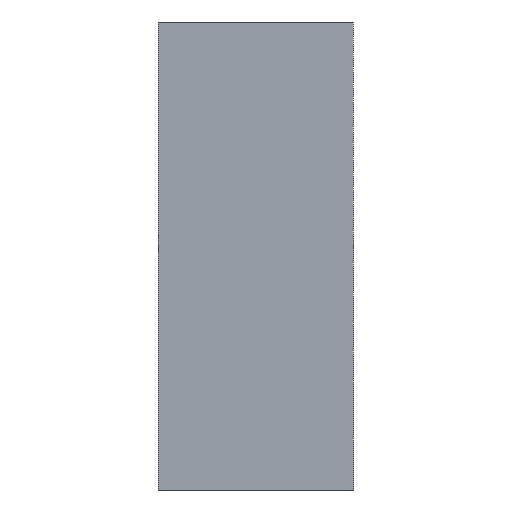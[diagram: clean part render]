
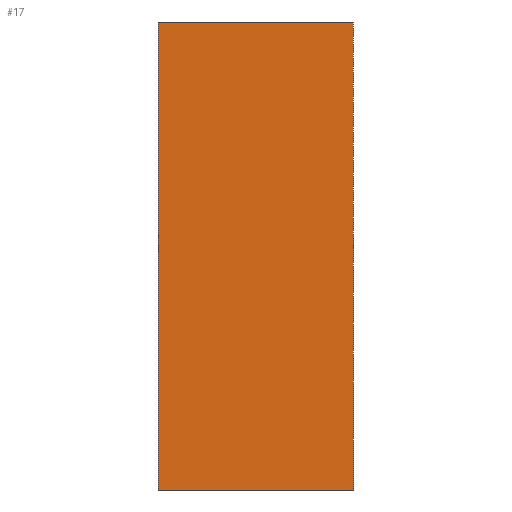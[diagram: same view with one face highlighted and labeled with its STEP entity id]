
A CAD part, front view. The second image highlights one B-rep face of the part: STEP entity #17.
In plain terms, the highlighted planar face has unit normal (0, -1, 0).
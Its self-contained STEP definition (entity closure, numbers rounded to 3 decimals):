
#17 = ADVANCED_FACE('',(#18),#32,.F.);
#18 = FACE_BOUND('',#19,.T.);
#19 = EDGE_LOOP('',(#20,#55,#83,#111));
#20 = ORIENTED_EDGE('',*,*,#21,.F.);
#21 = EDGE_CURVE('',#22,#24,#26,.T.);
#22 = VERTEX_POINT('',#23);
#23 = CARTESIAN_POINT('',(37.,19.,-236.));
#24 = VERTEX_POINT('',#25);
#25 = CARTESIAN_POINT('',(47.,19.,-236.));
#26 = SURFACE_CURVE('',#27,(#31,#43),.PCURVE_S1.);
#27 = LINE('',#28,#29);
#28 = CARTESIAN_POINT('',(37.,19.,-236.));
#29 = VECTOR('',#30,1.);
#30 = DIRECTION('',(1.,0.,0.));
#31 = PCURVE('',#32,#37);
#32 = PLANE('',#33);
#33 = AXIS2_PLACEMENT_3D('',#34,#35,#36);
#34 = CARTESIAN_POINT('',(37.,19.,-260.));
#35 = DIRECTION('',(-0.,1.,0.));
#36 = DIRECTION('',(0.,0.,1.));
#37 = DEFINITIONAL_REPRESENTATION('',(#38),#42);
#38 = LINE('',#39,#40);
#39 = CARTESIAN_POINT('',(24.,0.));
#40 = VECTOR('',#41,1.);
#41 = DIRECTION('',(0.,1.));
#42 = ( GEOMETRIC_REPRESENTATION_CONTEXT(2) 
PARAMETRIC_REPRESENTATION_CONTEXT() REPRESENTATION_CONTEXT('2D SPACE',''
  ) );
#43 = PCURVE('',#44,#49);
#44 = PLANE('',#45);
#45 = AXIS2_PLACEMENT_3D('',#46,#47,#48);
#46 = CARTESIAN_POINT('',(37.,19.,-236.));
#47 = DIRECTION('',(0.,0.,1.));
#48 = DIRECTION('',(1.,0.,-0.));
#49 = DEFINITIONAL_REPRESENTATION('',(#50),#54);
#50 = LINE('',#51,#52);
#51 = CARTESIAN_POINT('',(0.,0.));
#52 = VECTOR('',#53,1.);
#53 = DIRECTION('',(1.,0.));
#54 = ( GEOMETRIC_REPRESENTATION_CONTEXT(2) 
PARAMETRIC_REPRESENTATION_CONTEXT() REPRESENTATION_CONTEXT('2D SPACE',''
  ) );
#55 = ORIENTED_EDGE('',*,*,#56,.F.);
#56 = EDGE_CURVE('',#57,#22,#59,.T.);
#57 = VERTEX_POINT('',#58);
#58 = CARTESIAN_POINT('',(37.,19.,-260.));
#59 = SURFACE_CURVE('',#60,(#64,#71),.PCURVE_S1.);
#60 = LINE('',#61,#62);
#61 = CARTESIAN_POINT('',(37.,19.,-260.));
#62 = VECTOR('',#63,1.);
#63 = DIRECTION('',(0.,-0.,1.));
#64 = PCURVE('',#32,#65);
#65 = DEFINITIONAL_REPRESENTATION('',(#66),#70);
#66 = LINE('',#67,#68);
#67 = CARTESIAN_POINT('',(0.,0.));
#68 = VECTOR('',#69,1.);
#69 = DIRECTION('',(1.,0.));
#70 = ( GEOMETRIC_REPRESENTATION_CONTEXT(2) 
PARAMETRIC_REPRESENTATION_CONTEXT() REPRESENTATION_CONTEXT('2D SPACE',''
  ) );
#71 = PCURVE('',#72,#77);
#72 = PLANE('',#73);
#73 = AXIS2_PLACEMENT_3D('',#74,#75,#76);
#74 = CARTESIAN_POINT('',(37.,19.,-260.));
#75 = DIRECTION('',(1.,0.,-0.));
#76 = DIRECTION('',(-0.,0.,-1.));
#77 = DEFINITIONAL_REPRESENTATION('',(#78),#82);
#78 = LINE('',#79,#80);
#79 = CARTESIAN_POINT('',(0.,0.));
#80 = VECTOR('',#81,1.);
#81 = DIRECTION('',(-1.,0.));
#82 = ( GEOMETRIC_REPRESENTATION_CONTEXT(2) 
PARAMETRIC_REPRESENTATION_CONTEXT() REPRESENTATION_CONTEXT('2D SPACE',''
  ) );
#83 = ORIENTED_EDGE('',*,*,#84,.F.);
#84 = EDGE_CURVE('',#85,#57,#87,.T.);
#85 = VERTEX_POINT('',#86);
#86 = CARTESIAN_POINT('',(47.,19.,-260.));
#87 = SURFACE_CURVE('',#88,(#92,#99),.PCURVE_S1.);
#88 = LINE('',#89,#90);
#89 = CARTESIAN_POINT('',(37.,19.,-260.));
#90 = VECTOR('',#91,1.);
#91 = DIRECTION('',(-1.,-0.,-0.));
#92 = PCURVE('',#32,#93);
#93 = DEFINITIONAL_REPRESENTATION('',(#94),#98);
#94 = LINE('',#95,#96);
#95 = CARTESIAN_POINT('',(0.,0.));
#96 = VECTOR('',#97,1.);
#97 = DIRECTION('',(-0.,-1.));
#98 = ( GEOMETRIC_REPRESENTATION_CONTEXT(2) 
PARAMETRIC_REPRESENTATION_CONTEXT() REPRESENTATION_CONTEXT('2D SPACE',''
  ) );
#99 = PCURVE('',#100,#105);
#100 = PLANE('',#101);
#101 = AXIS2_PLACEMENT_3D('',#102,#103,#104);
#102 = CARTESIAN_POINT('',(37.,19.,-260.));
#103 = DIRECTION('',(0.,0.,1.));
#104 = DIRECTION('',(1.,0.,-0.));
#105 = DEFINITIONAL_REPRESENTATION('',(#106),#110);
#106 = LINE('',#107,#108);
#107 = CARTESIAN_POINT('',(0.,0.));
#108 = VECTOR('',#109,1.);
#109 = DIRECTION('',(-1.,0.));
#110 = ( GEOMETRIC_REPRESENTATION_CONTEXT(2) 
PARAMETRIC_REPRESENTATION_CONTEXT() REPRESENTATION_CONTEXT('2D SPACE',''
  ) );
#111 = ORIENTED_EDGE('',*,*,#112,.F.);
#112 = EDGE_CURVE('',#24,#85,#113,.T.);
#113 = SURFACE_CURVE('',#114,(#118,#125),.PCURVE_S1.);
#114 = LINE('',#115,#116);
#115 = CARTESIAN_POINT('',(47.,19.,-260.));
#116 = VECTOR('',#117,1.);
#117 = DIRECTION('',(-0.,0.,-1.));
#118 = PCURVE('',#32,#119);
#119 = DEFINITIONAL_REPRESENTATION('',(#120),#124);
#120 = LINE('',#121,#122);
#121 = CARTESIAN_POINT('',(0.,10.));
#122 = VECTOR('',#123,1.);
#123 = DIRECTION('',(-1.,0.));
#124 = ( GEOMETRIC_REPRESENTATION_CONTEXT(2) 
PARAMETRIC_REPRESENTATION_CONTEXT() REPRESENTATION_CONTEXT('2D SPACE',''
  ) );
#125 = PCURVE('',#126,#131);
#126 = PLANE('',#127);
#127 = AXIS2_PLACEMENT_3D('',#128,#129,#130);
#128 = CARTESIAN_POINT('',(47.,19.,-260.));
#129 = DIRECTION('',(1.,0.,-0.));
#130 = DIRECTION('',(-0.,0.,-1.));
#131 = DEFINITIONAL_REPRESENTATION('',(#132),#136);
#132 = LINE('',#133,#134);
#133 = CARTESIAN_POINT('',(0.,0.));
#134 = VECTOR('',#135,1.);
#135 = DIRECTION('',(1.,0.));
#136 = ( GEOMETRIC_REPRESENTATION_CONTEXT(2) 
PARAMETRIC_REPRESENTATION_CONTEXT() REPRESENTATION_CONTEXT('2D SPACE',''
  ) );
